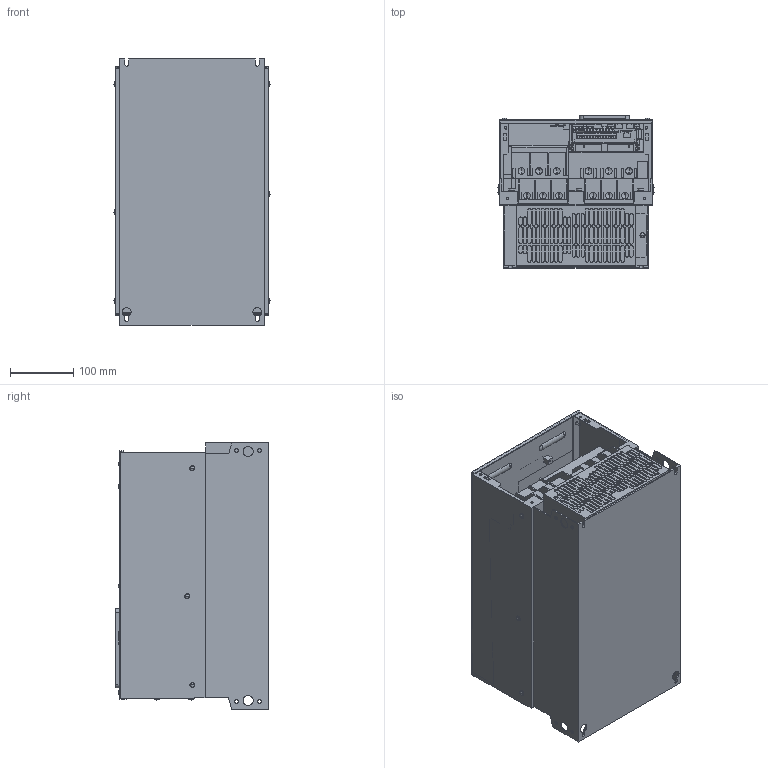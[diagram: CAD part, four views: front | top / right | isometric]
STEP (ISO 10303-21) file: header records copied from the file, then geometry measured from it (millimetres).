
FILE_DESCRIPTION((''),'2;1');
FILE_NAME('VFAS3_S3Y_01_1_ASM_1_ASM','2021-12-07T13:21:34',('SESA57284'),('Schneider-Electric'),'CREO PARAMETRIC BY PTC INC, 2019471','CREO PARAMETRIC BY PTC INC, 2019471','');
FILE_SCHEMA(('AP242_MANAGED_MODEL_BASED_3D_ENGINEERING_MIM_LF { 1 0 10303 442 1 1 4 }'));
Products named in the file (15): OPERATION_PANEL_1_PRT_1; OPERATION_PANEL_COVER_1_PRT_1; RKP010Z-A1_ASM_3_ASM_ASM_1_ASM; S6571352_001_ASM_ASM_1_ASM; VFAS3_S3Y_DRIVE_1_PRT_1; VFAS3_CONNECTOR_COVER_PRT_1; VFAS3_WIRING_COVER_PRT_1; VFAS3_PROTECTION_LABEL_PRT_1; VFAS3_CONTROL_TERMINAL_BLOCK_PR; VFAS3_SHORTING_BAR_PRT_1; VFAS3_S3Y_CONTROL_CAP_1_PRT_1; VFAS3_S3Y_FRONT_COVER_1_PRT_1; VFAS3_S3Y_IT_SCREW_1_PRT_1; VFAS3_S3Y_GROUNDING_SCREW_1_PRT; VFAS3_S3Y_01_1_ASM_1_ASM
Assembly tree (16 placements, depth 4):
  VFAS3_S3Y_01_1_ASM_1_ASM
    S6571352_001_ASM_ASM_1_ASM
      RKP010Z-A1_ASM_3_ASM_ASM_1_ASM
        OPERATION_PANEL_1_PRT_1
        OPERATION_PANEL_COVER_1_PRT_1
    VFAS3_S3Y_DRIVE_1_PRT_1
    VFAS3_CONNECTOR_COVER_PRT_1
    VFAS3_WIRING_COVER_PRT_1
    VFAS3_PROTECTION_LABEL_PRT_1
    VFAS3_CONTROL_TERMINAL_BLOCK_PR
    VFAS3_SHORTING_BAR_PRT_1
    VFAS3_S3Y_CONTROL_CAP_1_PRT_1
    VFAS3_S3Y_FRONT_COVER_1_PRT_1
    VFAS3_S3Y_IT_SCREW_1_PRT_1
    VFAS3_S3Y_GROUNDING_SCREW_1_PRT  x3
Bounding box: 246.2 x 241.08 x 420 mm (x, y, z)
Volume: 16057091 mm3; surface area: 1098278.5 mm2
Topology: 14 solids, 19 shells, 4000 faces, 10538 edges, 7017 vertices
Faces by surface type: plane 2422, cylinder 1356, sphere 60, cone 58, bspline 52, torus 52
Entity records: 127660 total; most frequent: CARTESIAN_POINT 25911, DIRECTION 21206, ORIENTED_EDGE 20828, EDGE_CURVE 10414, AXIS2_PLACEMENT_3D 7077, VECTOR 7052, LINE 7052, VERTEX_POINT 6977
